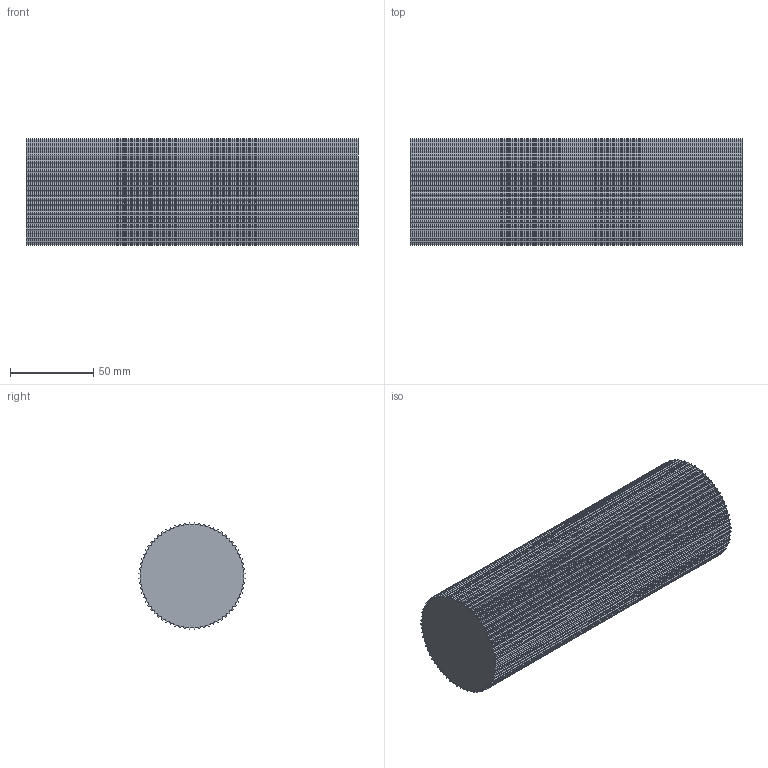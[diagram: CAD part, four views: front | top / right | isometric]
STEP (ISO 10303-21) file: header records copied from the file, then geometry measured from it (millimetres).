
FILE_DESCRIPTION( ( 'STEP AP214' ), '1' );
FILE_NAME( 'C:/Users/StangenbergN/Documents/CAD_Step/1/17096800.stp', '2019-08-23T07:12:23', ( '' ), ( '' ), ' ', 'PARTsolutions', ' ' );
FILE_SCHEMA( ( 'AUTOMOTIVE_DESIGN { 1 0 10303 214 1 1 1 1 }' ) );
Length unit declared in the file: millimetre
Products named in the file (1): _17096800
Bounding box: 200 x 64.11 x 64.11 mm (x, y, z)
Volume: 617568.2 mm3; surface area: 61432.6 mm2
Topology: 1 solids, 1 shells, 546 faces, 1632 edges, 1088 vertices
Faces by surface type: cylinder 340, plane 206
Entity records: 23040 total; most frequent: DIRECTION 3406, CARTESIAN_POINT 3267, ORIENTED_EDGE 3264, EDGE_CURVE 1632, AXIS2_PLACEMENT_3D 1227, VERTEX_POINT 1088, LINE 952, VECTOR 952
